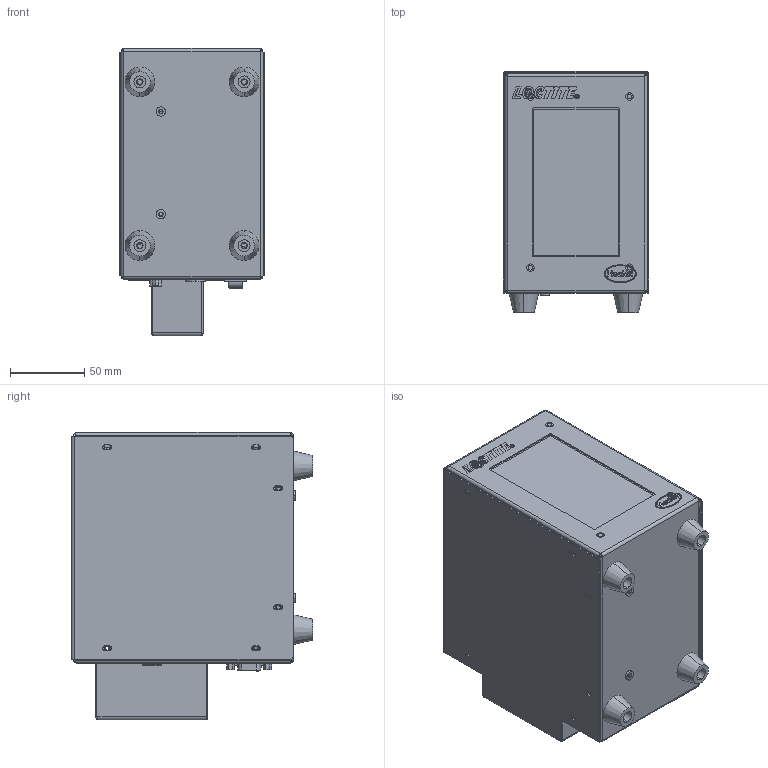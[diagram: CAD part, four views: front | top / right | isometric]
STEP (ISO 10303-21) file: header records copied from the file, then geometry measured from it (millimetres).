
FILE_DESCRIPTION((''),'2;1');
FILE_NAME('ASM0001_ASM','2020-07-30T11:49:52',('ODL-LIU'),(''),'CREO PARAMETRIC BY PTC INC, 2019471','CREO PARAMETRIC BY PTC INC, 2019471','');
FILE_SCHEMA(('AUTOMOTIVE_DESIGN { 1 0 10303 214 1 1 1 1 }'));
Products named in the file (19): 0001; 0002; PRT0004; PRT0007; 6PIN; ASM0002_ASM; PRT0009; RS232_DB9-00; PRT0008; ASM0003_ASM; PRT0010; PRT0012; PRT0011; YM-M3; YM-M4; PRT0013; PRT0014; PRT0015; ASM0001_ASM
Assembly tree (38 placements, depth 3):
  ASM0001_ASM
    0001
    0002
    PRT0004  x4
    ASM0002_ASM
      PRT0007
      6PIN  x4
    ASM0003_ASM
      PRT0009
      RS232_DB9-00
      PRT0008  x2
    PRT0010
    PRT0012
    PRT0011
    YM-M3  x11
    YM-M4  x4
    PRT0013
    PRT0014
    PRT0015
Bounding box: 98 x 162 x 193.1 mm (x, y, z)
Volume: 297933 mm3; surface area: 350105.8 mm2
Topology: 40 solids, 76 shells, 2155 faces, 5439 edges, 3548 vertices
Faces by surface type: plane 1335, cylinder 685, extrusion 59, cone 42, bspline 24, torus 10
Entity records: 79585 total; most frequent: CARTESIAN_POINT 11254, ORIENTED_EDGE 9146, DIRECTION 8874, PRESENTATION_STYLE_ASSIGNMENT 5641, STYLED_ITEM 5623, EDGE_CURVE 4577, CURVE_STYLE 4089, VECTOR 3532
